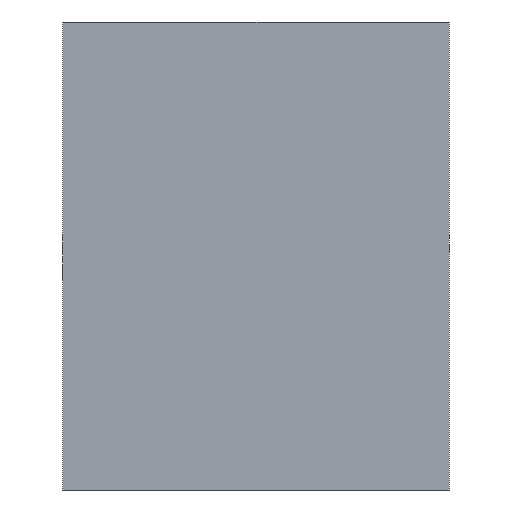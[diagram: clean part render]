
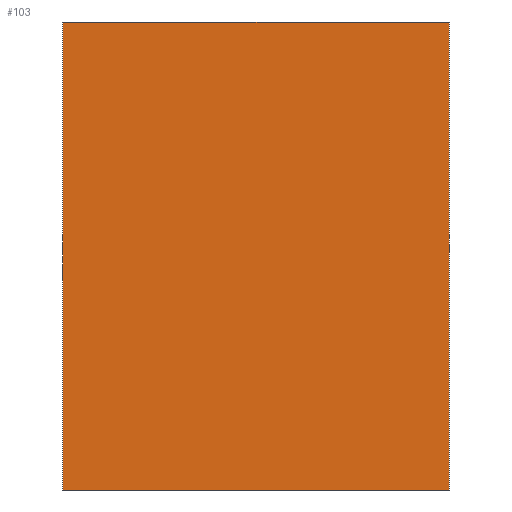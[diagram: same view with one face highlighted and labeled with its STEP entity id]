
A CAD part, left-side view. The second image highlights one B-rep face of the part: STEP entity #103.
In plain terms, the highlighted planar face has unit normal (-1, 0, 0).
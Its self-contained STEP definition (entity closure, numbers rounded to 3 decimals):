
#103 = ADVANCED_FACE( '', ( #197 ), #198, .F. );
#197 = FACE_OUTER_BOUND( '', #277, .T. );
#198 = PLANE( '', #278 );
#277 = EDGE_LOOP( '', ( #429, #430, #431, #432 ) );
#278 = AXIS2_PLACEMENT_3D( '', #433, #434, #435 );
#429 = ORIENTED_EDGE( '', *, *, #474, .T. );
#430 = ORIENTED_EDGE( '', *, *, #500, .F. );
#431 = ORIENTED_EDGE( '', *, *, #449, .F. );
#432 = ORIENTED_EDGE( '', *, *, #504, .T. );
#433 = CARTESIAN_POINT( '', ( -8., 0., 20. ) );
#434 = DIRECTION( '', ( 1., 0., 0. ) );
#435 = DIRECTION( '', ( 0., 0., -1. ) );
#449 = EDGE_CURVE( '', #510, #512, #513, .T. );
#474 = EDGE_CURVE( '', #556, #554, #557, .T. );
#500 = EDGE_CURVE( '', #512, #554, #588, .T. );
#504 = EDGE_CURVE( '', #510, #556, #592, .T. );
#510 = VERTEX_POINT( '', #599 );
#512 = VERTEX_POINT( '', #602 );
#513 = LINE( '', #603, #604 );
#554 = VERTEX_POINT( '', #662 );
#556 = VERTEX_POINT( '', #665 );
#557 = LINE( '', #666, #667 );
#588 = LINE( '', #709, #710 );
#592 = LINE( '', #715, #716 );
#599 = CARTESIAN_POINT( '', ( -8., 0., 20. ) );
#602 = CARTESIAN_POINT( '', ( -8., -33., 20. ) );
#603 = CARTESIAN_POINT( '', ( -8., 0., 20. ) );
#604 = VECTOR( '', #720, 1000. );
#662 = CARTESIAN_POINT( '', ( -8., -33., -20. ) );
#665 = CARTESIAN_POINT( '', ( -8., 0., -20. ) );
#666 = CARTESIAN_POINT( '', ( -8., 0., -20. ) );
#667 = VECTOR( '', #742, 1000. );
#709 = CARTESIAN_POINT( '', ( -8., -33., 20. ) );
#710 = VECTOR( '', #763, 1000. );
#715 = CARTESIAN_POINT( '', ( -8., 0., 20. ) );
#716 = VECTOR( '', #765, 1000. );
#720 = DIRECTION( '', ( 0., -1., 0. ) );
#742 = DIRECTION( '', ( 0., -1., 0. ) );
#763 = DIRECTION( '', ( 0., 0., -1. ) );
#765 = DIRECTION( '', ( 0., 0., -1. ) );
